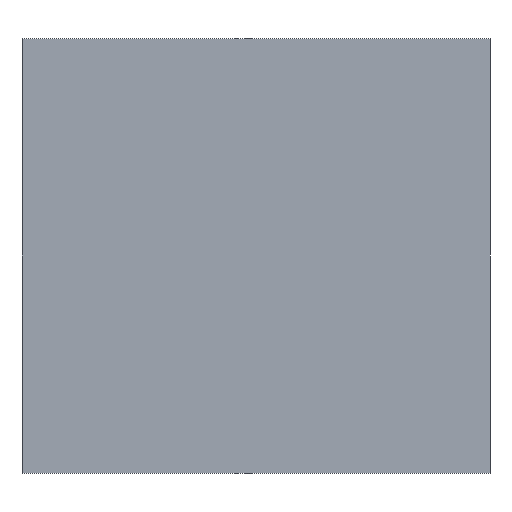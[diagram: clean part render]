
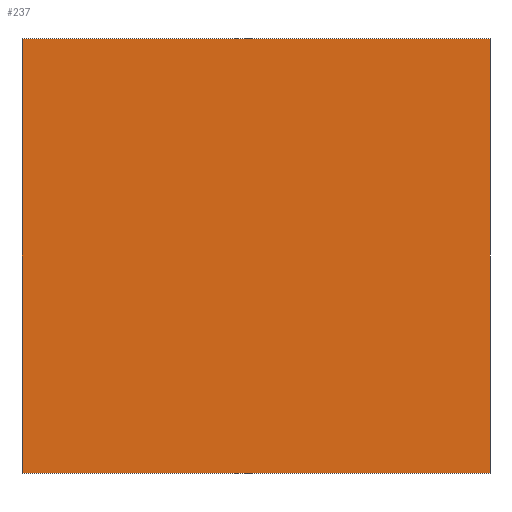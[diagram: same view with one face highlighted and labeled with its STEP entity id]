
A CAD part, front view. The second image highlights one B-rep face of the part: STEP entity #237.
In plain terms, the highlighted planar face has unit normal (0, -1, 0).
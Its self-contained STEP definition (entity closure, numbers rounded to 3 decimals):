
#21 = EDGE_CURVE('',#22,#24,#26,.T.);
#22 = VERTEX_POINT('',#23);
#23 = CARTESIAN_POINT('',(113.5,108.,250.));
#24 = VERTEX_POINT('',#25);
#25 = CARTESIAN_POINT('',(113.5,108.,263.));
#26 = SURFACE_CURVE('',#27,(#31,#43),.PCURVE_S1.);
#27 = LINE('',#28,#29);
#28 = CARTESIAN_POINT('',(113.5,108.,250.));
#29 = VECTOR('',#30,1.);
#30 = DIRECTION('',(0.,0.,1.));
#31 = PCURVE('',#32,#37);
#32 = PLANE('',#33);
#33 = AXIS2_PLACEMENT_3D('',#34,#35,#36);
#34 = CARTESIAN_POINT('',(113.5,108.,250.));
#35 = DIRECTION('',(1.,0.,-0.));
#36 = DIRECTION('',(0.,0.,1.));
#37 = DEFINITIONAL_REPRESENTATION('',(#38),#42);
#38 = LINE('',#39,#40);
#39 = CARTESIAN_POINT('',(0.,0.));
#40 = VECTOR('',#41,1.);
#41 = DIRECTION('',(1.,0.));
#42 = ( GEOMETRIC_REPRESENTATION_CONTEXT(2) 
PARAMETRIC_REPRESENTATION_CONTEXT() REPRESENTATION_CONTEXT('2D SPACE',''
  ) );
#43 = PCURVE('',#44,#49);
#44 = PLANE('',#45);
#45 = AXIS2_PLACEMENT_3D('',#46,#47,#48);
#46 = CARTESIAN_POINT('',(113.5,108.,250.));
#47 = DIRECTION('',(-0.,1.,0.));
#48 = DIRECTION('',(0.,0.,1.));
#49 = DEFINITIONAL_REPRESENTATION('',(#50),#54);
#50 = LINE('',#51,#52);
#51 = CARTESIAN_POINT('',(0.,0.));
#52 = VECTOR('',#53,1.);
#53 = DIRECTION('',(1.,0.));
#54 = ( GEOMETRIC_REPRESENTATION_CONTEXT(2) 
PARAMETRIC_REPRESENTATION_CONTEXT() REPRESENTATION_CONTEXT('2D SPACE',''
  ) );
#72 = PLANE('',#73);
#73 = AXIS2_PLACEMENT_3D('',#74,#75,#76);
#74 = CARTESIAN_POINT('',(113.5,108.,250.));
#75 = DIRECTION('',(0.,0.,1.));
#76 = DIRECTION('',(1.,0.,-0.));
#126 = PLANE('',#127);
#127 = AXIS2_PLACEMENT_3D('',#128,#129,#130);
#128 = CARTESIAN_POINT('',(113.5,108.,263.));
#129 = DIRECTION('',(0.,0.,1.));
#130 = DIRECTION('',(1.,0.,-0.));
#141 = EDGE_CURVE('',#142,#144,#146,.T.);
#142 = VERTEX_POINT('',#143);
#143 = CARTESIAN_POINT('',(127.5,108.,250.));
#144 = VERTEX_POINT('',#145);
#145 = CARTESIAN_POINT('',(127.5,108.,263.));
#146 = SURFACE_CURVE('',#147,(#151,#163),.PCURVE_S1.);
#147 = LINE('',#148,#149);
#148 = CARTESIAN_POINT('',(127.5,108.,250.));
#149 = VECTOR('',#150,1.);
#150 = DIRECTION('',(0.,0.,1.));
#151 = PCURVE('',#152,#157);
#152 = PLANE('',#153);
#153 = AXIS2_PLACEMENT_3D('',#154,#155,#156);
#154 = CARTESIAN_POINT('',(127.5,108.,250.));
#155 = DIRECTION('',(1.,0.,-0.));
#156 = DIRECTION('',(0.,0.,1.));
#157 = DEFINITIONAL_REPRESENTATION('',(#158),#162);
#158 = LINE('',#159,#160);
#159 = CARTESIAN_POINT('',(0.,0.));
#160 = VECTOR('',#161,1.);
#161 = DIRECTION('',(1.,0.));
#162 = ( GEOMETRIC_REPRESENTATION_CONTEXT(2) 
PARAMETRIC_REPRESENTATION_CONTEXT() REPRESENTATION_CONTEXT('2D SPACE',''
  ) );
#163 = PCURVE('',#44,#164);
#164 = DEFINITIONAL_REPRESENTATION('',(#165),#169);
#165 = LINE('',#166,#167);
#166 = CARTESIAN_POINT('',(0.,14.));
#167 = VECTOR('',#168,1.);
#168 = DIRECTION('',(1.,0.));
#169 = ( GEOMETRIC_REPRESENTATION_CONTEXT(2) 
PARAMETRIC_REPRESENTATION_CONTEXT() REPRESENTATION_CONTEXT('2D SPACE',''
  ) );
#237 = ADVANCED_FACE('',(#238),#44,.F.);
#238 = FACE_BOUND('',#239,.F.);
#239 = EDGE_LOOP('',(#240,#261,#262,#283));
#240 = ORIENTED_EDGE('',*,*,#241,.F.);
#241 = EDGE_CURVE('',#22,#142,#242,.T.);
#242 = SURFACE_CURVE('',#243,(#247,#254),.PCURVE_S1.);
#243 = LINE('',#244,#245);
#244 = CARTESIAN_POINT('',(113.5,108.,250.));
#245 = VECTOR('',#246,1.);
#246 = DIRECTION('',(1.,0.,-0.));
#247 = PCURVE('',#44,#248);
#248 = DEFINITIONAL_REPRESENTATION('',(#249),#253);
#249 = LINE('',#250,#251);
#250 = CARTESIAN_POINT('',(0.,0.));
#251 = VECTOR('',#252,1.);
#252 = DIRECTION('',(0.,1.));
#253 = ( GEOMETRIC_REPRESENTATION_CONTEXT(2) 
PARAMETRIC_REPRESENTATION_CONTEXT() REPRESENTATION_CONTEXT('2D SPACE',''
  ) );
#254 = PCURVE('',#72,#255);
#255 = DEFINITIONAL_REPRESENTATION('',(#256),#260);
#256 = LINE('',#257,#258);
#257 = CARTESIAN_POINT('',(0.,0.));
#258 = VECTOR('',#259,1.);
#259 = DIRECTION('',(1.,0.));
#260 = ( GEOMETRIC_REPRESENTATION_CONTEXT(2) 
PARAMETRIC_REPRESENTATION_CONTEXT() REPRESENTATION_CONTEXT('2D SPACE',''
  ) );
#261 = ORIENTED_EDGE('',*,*,#21,.T.);
#262 = ORIENTED_EDGE('',*,*,#263,.T.);
#263 = EDGE_CURVE('',#24,#144,#264,.T.);
#264 = SURFACE_CURVE('',#265,(#269,#276),.PCURVE_S1.);
#265 = LINE('',#266,#267);
#266 = CARTESIAN_POINT('',(113.5,108.,263.));
#267 = VECTOR('',#268,1.);
#268 = DIRECTION('',(1.,0.,-0.));
#269 = PCURVE('',#44,#270);
#270 = DEFINITIONAL_REPRESENTATION('',(#271),#275);
#271 = LINE('',#272,#273);
#272 = CARTESIAN_POINT('',(13.,0.));
#273 = VECTOR('',#274,1.);
#274 = DIRECTION('',(0.,1.));
#275 = ( GEOMETRIC_REPRESENTATION_CONTEXT(2) 
PARAMETRIC_REPRESENTATION_CONTEXT() REPRESENTATION_CONTEXT('2D SPACE',''
  ) );
#276 = PCURVE('',#126,#277);
#277 = DEFINITIONAL_REPRESENTATION('',(#278),#282);
#278 = LINE('',#279,#280);
#279 = CARTESIAN_POINT('',(0.,0.));
#280 = VECTOR('',#281,1.);
#281 = DIRECTION('',(1.,0.));
#282 = ( GEOMETRIC_REPRESENTATION_CONTEXT(2) 
PARAMETRIC_REPRESENTATION_CONTEXT() REPRESENTATION_CONTEXT('2D SPACE',''
  ) );
#283 = ORIENTED_EDGE('',*,*,#141,.F.);
